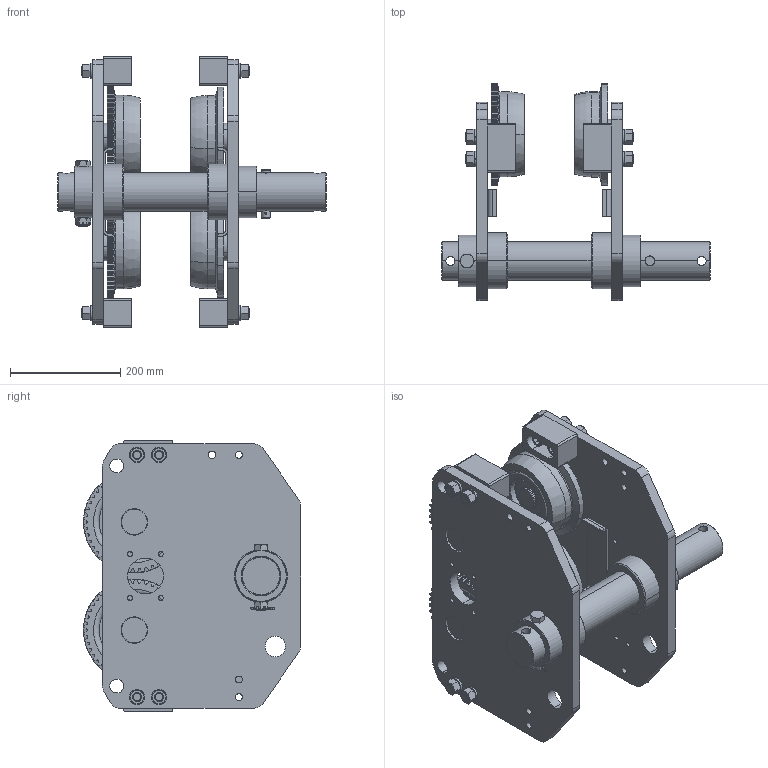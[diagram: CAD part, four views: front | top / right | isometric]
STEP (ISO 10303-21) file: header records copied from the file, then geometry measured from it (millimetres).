
FILE_DESCRIPTION (( 'STEP AP214' ), '1' );
FILE_NAME ('PTS100.STEP', '2026-08-17T14:41:10', ( '' ), ( '' ), 'SwSTEP 2.0', 'SolidWorks 2026', '' );
FILE_SCHEMA (( 'AUTOMOTIVE_DESIGN' ));
Length unit declared in the file: inch
Products named in the file (26): M6SE100S9114; 9047140_9047140; T3GA1009112; 9009436_9009436; T3GA1009103; T3GA1009102; 6308Z Bearing; J1SR000-00090_J1SR000-00090; T3GA1009111; MS115075_MS115075; T3G1101075; 90912156_90912156; M6SE100S9113; T3GA1005111; MS104075; 9093439_9093439; T3G154075_T3G154075; T3GA1009118; T3GA1009101; MS164075; T5AB0759141; T3GB1005112; 9012715_9012715; T3G1102075; PTS100; MS161100
Assembly tree (64 placements, depth 3):
  PTS100
    T3GB1005112
      T3GA1009112
      T3GA1009118
      M6SE100S9114
      T3GA1009103  x2
    T3GA1005111
      T3GA1009111
      M6SE100S9113
      T3GA1009118
      T3GA1009103  x2
    T3G1102075  x2
      T3GA1009102
      6308Z Bearing
      J1SR000-00090_J1SR000-00090
    MS104075  x4
    9047140_9047140  x4
    T5AB0759141  x4
    90912156_90912156  x8
    9012715_9012715  x8
    9093439_9093439  x8
    MS115075_MS115075
    MS161100
    MS164075
    9009436_9009436  x2
    T3G1101075  x2
      T3GA1009101
      6308Z Bearing
      J1SR000-00090_J1SR000-00090
    T3G154075_T3G154075
Bounding box: 488 x 394.52 x 492 mm (x, y, z)
Volume: 12534558.8 mm3; surface area: 1859634.7 mm2
Topology: 60 solids, 76 shells, 3830 faces, 10106 edges, 6588 vertices
Faces by surface type: plane 1632, cylinder 1362, bspline 398, cone 318, torus 120
Entity records: 54234 total; most frequent: CARTESIAN_POINT 19320, ORIENTED_EDGE 7530, DIRECTION 6527, EDGE_CURVE 3767, AXIS2_PLACEMENT_3D 2547, VERTEX_POINT 2458, EDGE_LOOP 1563, LINE 1433
